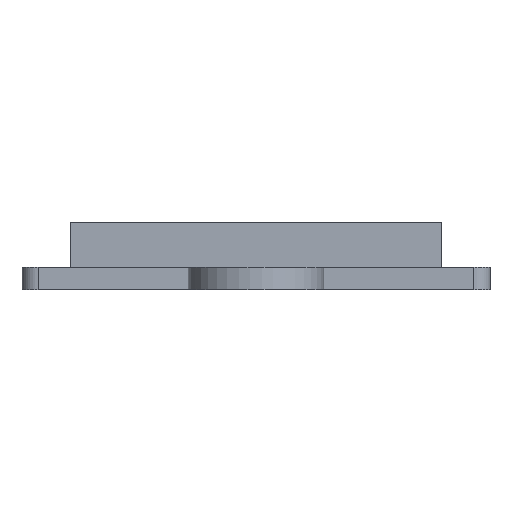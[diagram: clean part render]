
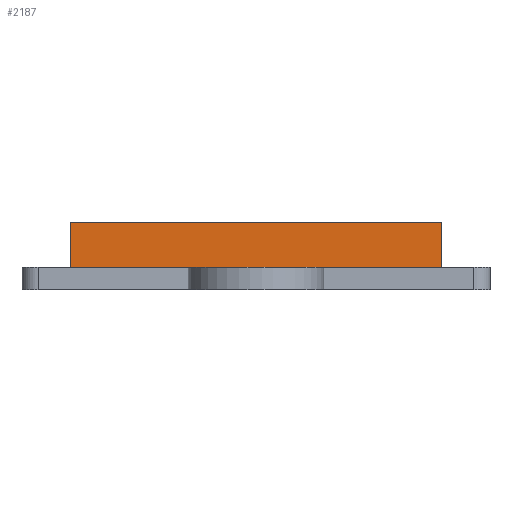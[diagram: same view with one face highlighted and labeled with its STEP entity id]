
A CAD part, left-side view. The second image highlights one B-rep face of the part: STEP entity #2187.
In plain terms, the highlighted planar face has unit normal (-1, 0, 0).
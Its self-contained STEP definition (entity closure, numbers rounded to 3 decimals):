
#62 = PLANE('',#63);
#63 = AXIS2_PLACEMENT_3D('',#64,#65,#66);
#64 = CARTESIAN_POINT('',(-14.5,-17.5,68.2));
#65 = DIRECTION('',(0.,0.,1.));
#66 = DIRECTION('',(1.,0.,0.));
#668 = VERTEX_POINT('',#669);
#669 = CARTESIAN_POINT('',(-12.,-14.5,68.2));
#683 = PLANE('',#684);
#684 = AXIS2_PLACEMENT_3D('',#685,#686,#687);
#685 = CARTESIAN_POINT('',(-12.,-14.5,68.2));
#686 = DIRECTION('',(0.,1.,0.));
#687 = DIRECTION('',(0.,0.,1.));
#695 = EDGE_CURVE('',#668,#696,#698,.T.);
#696 = VERTEX_POINT('',#697);
#697 = CARTESIAN_POINT('',(-12.,8.5,68.2));
#698 = SURFACE_CURVE('',#699,(#703,#710),.PCURVE_S1.);
#699 = LINE('',#700,#701);
#700 = CARTESIAN_POINT('',(-12.,-14.5,68.2));
#701 = VECTOR('',#702,1.);
#702 = DIRECTION('',(0.,1.,0.));
#703 = PCURVE('',#62,#704);
#704 = DEFINITIONAL_REPRESENTATION('',(#705),#709);
#705 = LINE('',#706,#707);
#706 = CARTESIAN_POINT('',(2.5,3.));
#707 = VECTOR('',#708,1.);
#708 = DIRECTION('',(0.,1.));
#709 = ( GEOMETRIC_REPRESENTATION_CONTEXT(2) 
PARAMETRIC_REPRESENTATION_CONTEXT() REPRESENTATION_CONTEXT('2D SPACE',''
  ) );
#710 = PCURVE('',#711,#716);
#711 = PLANE('',#712);
#712 = AXIS2_PLACEMENT_3D('',#713,#714,#715);
#713 = CARTESIAN_POINT('',(-12.,-14.5,68.2));
#714 = DIRECTION('',(1.,0.,0.));
#715 = DIRECTION('',(0.,0.,1.));
#716 = DEFINITIONAL_REPRESENTATION('',(#717),#721);
#717 = LINE('',#718,#719);
#718 = CARTESIAN_POINT('',(0.,0.));
#719 = VECTOR('',#720,1.);
#720 = DIRECTION('',(0.,-1.));
#721 = ( GEOMETRIC_REPRESENTATION_CONTEXT(2) 
PARAMETRIC_REPRESENTATION_CONTEXT() REPRESENTATION_CONTEXT('2D SPACE',''
  ) );
#739 = PLANE('',#740);
#740 = AXIS2_PLACEMENT_3D('',#741,#742,#743);
#741 = CARTESIAN_POINT('',(-12.,8.5,68.2));
#742 = DIRECTION('',(0.,1.,0.));
#743 = DIRECTION('',(0.,0.,1.));
#2100 = PLANE('',#2101);
#2101 = AXIS2_PLACEMENT_3D('',#2102,#2103,#2104);
#2102 = CARTESIAN_POINT('',(-12.,-14.5,71.));
#2103 = DIRECTION('',(0.,0.,1.));
#2104 = DIRECTION('',(1.,0.,0.));
#2143 = EDGE_CURVE('',#668,#2144,#2146,.T.);
#2144 = VERTEX_POINT('',#2145);
#2145 = CARTESIAN_POINT('',(-12.,-14.5,71.));
#2146 = SURFACE_CURVE('',#2147,(#2151,#2158),.PCURVE_S1.);
#2147 = LINE('',#2148,#2149);
#2148 = CARTESIAN_POINT('',(-12.,-14.5,68.2));
#2149 = VECTOR('',#2150,1.);
#2150 = DIRECTION('',(0.,0.,1.));
#2151 = PCURVE('',#683,#2152);
#2152 = DEFINITIONAL_REPRESENTATION('',(#2153),#2157);
#2153 = LINE('',#2154,#2155);
#2154 = CARTESIAN_POINT('',(0.,0.));
#2155 = VECTOR('',#2156,1.);
#2156 = DIRECTION('',(1.,0.));
#2157 = ( GEOMETRIC_REPRESENTATION_CONTEXT(2) 
PARAMETRIC_REPRESENTATION_CONTEXT() REPRESENTATION_CONTEXT('2D SPACE',''
  ) );
#2158 = PCURVE('',#711,#2159);
#2159 = DEFINITIONAL_REPRESENTATION('',(#2160),#2164);
#2160 = LINE('',#2161,#2162);
#2161 = CARTESIAN_POINT('',(0.,0.));
#2162 = VECTOR('',#2163,1.);
#2163 = DIRECTION('',(1.,0.));
#2164 = ( GEOMETRIC_REPRESENTATION_CONTEXT(2) 
PARAMETRIC_REPRESENTATION_CONTEXT() REPRESENTATION_CONTEXT('2D SPACE',''
  ) );
#2187 = ADVANCED_FACE('',(#2188),#711,.F.);
#2188 = FACE_BOUND('',#2189,.F.);
#2189 = EDGE_LOOP('',(#2190,#2191,#2192,#2215));
#2190 = ORIENTED_EDGE('',*,*,#2143,.F.);
#2191 = ORIENTED_EDGE('',*,*,#695,.T.);
#2192 = ORIENTED_EDGE('',*,*,#2193,.T.);
#2193 = EDGE_CURVE('',#696,#2194,#2196,.T.);
#2194 = VERTEX_POINT('',#2195);
#2195 = CARTESIAN_POINT('',(-12.,8.5,71.));
#2196 = SURFACE_CURVE('',#2197,(#2201,#2208),.PCURVE_S1.);
#2197 = LINE('',#2198,#2199);
#2198 = CARTESIAN_POINT('',(-12.,8.5,68.2));
#2199 = VECTOR('',#2200,1.);
#2200 = DIRECTION('',(0.,0.,1.));
#2201 = PCURVE('',#711,#2202);
#2202 = DEFINITIONAL_REPRESENTATION('',(#2203),#2207);
#2203 = LINE('',#2204,#2205);
#2204 = CARTESIAN_POINT('',(0.,-23.));
#2205 = VECTOR('',#2206,1.);
#2206 = DIRECTION('',(1.,0.));
#2207 = ( GEOMETRIC_REPRESENTATION_CONTEXT(2) 
PARAMETRIC_REPRESENTATION_CONTEXT() REPRESENTATION_CONTEXT('2D SPACE',''
  ) );
#2208 = PCURVE('',#739,#2209);
#2209 = DEFINITIONAL_REPRESENTATION('',(#2210),#2214);
#2210 = LINE('',#2211,#2212);
#2211 = CARTESIAN_POINT('',(0.,0.));
#2212 = VECTOR('',#2213,1.);
#2213 = DIRECTION('',(1.,0.));
#2214 = ( GEOMETRIC_REPRESENTATION_CONTEXT(2) 
PARAMETRIC_REPRESENTATION_CONTEXT() REPRESENTATION_CONTEXT('2D SPACE',''
  ) );
#2215 = ORIENTED_EDGE('',*,*,#2216,.F.);
#2216 = EDGE_CURVE('',#2144,#2194,#2217,.T.);
#2217 = SURFACE_CURVE('',#2218,(#2222,#2229),.PCURVE_S1.);
#2218 = LINE('',#2219,#2220);
#2219 = CARTESIAN_POINT('',(-12.,-14.5,71.));
#2220 = VECTOR('',#2221,1.);
#2221 = DIRECTION('',(0.,1.,0.));
#2222 = PCURVE('',#711,#2223);
#2223 = DEFINITIONAL_REPRESENTATION('',(#2224),#2228);
#2224 = LINE('',#2225,#2226);
#2225 = CARTESIAN_POINT('',(2.8,0.));
#2226 = VECTOR('',#2227,1.);
#2227 = DIRECTION('',(0.,-1.));
#2228 = ( GEOMETRIC_REPRESENTATION_CONTEXT(2) 
PARAMETRIC_REPRESENTATION_CONTEXT() REPRESENTATION_CONTEXT('2D SPACE',''
  ) );
#2229 = PCURVE('',#2100,#2230);
#2230 = DEFINITIONAL_REPRESENTATION('',(#2231),#2235);
#2231 = LINE('',#2232,#2233);
#2232 = CARTESIAN_POINT('',(0.,0.));
#2233 = VECTOR('',#2234,1.);
#2234 = DIRECTION('',(0.,1.));
#2235 = ( GEOMETRIC_REPRESENTATION_CONTEXT(2) 
PARAMETRIC_REPRESENTATION_CONTEXT() REPRESENTATION_CONTEXT('2D SPACE',''
  ) );
